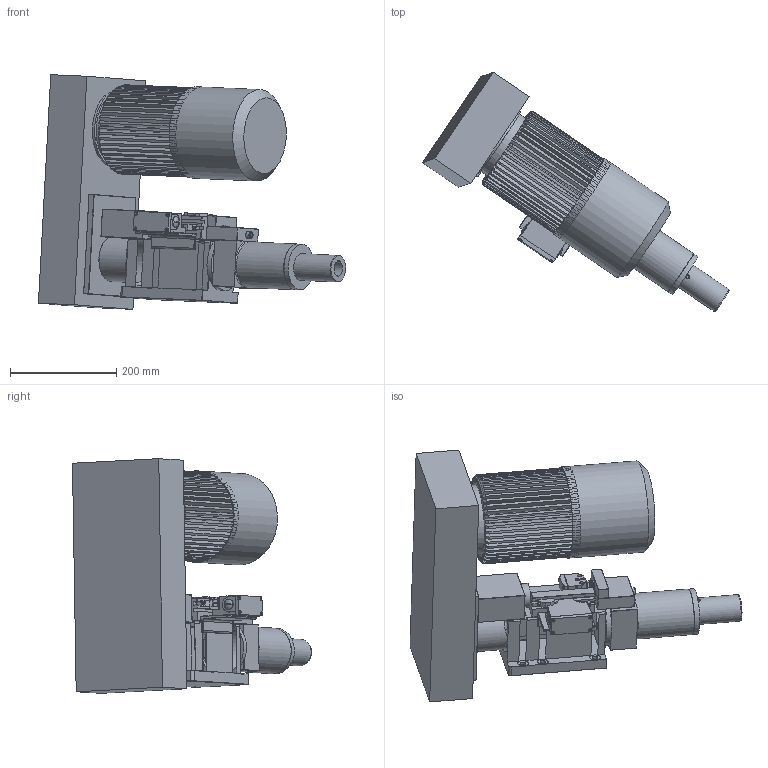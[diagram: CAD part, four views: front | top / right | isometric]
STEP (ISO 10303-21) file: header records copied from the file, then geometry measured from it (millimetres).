
FILE_DESCRIPTION((''),'2;1');
FILE_NAME('C:\VaultWork\Zeichnungen\Maßblätter\Gewindemaschinen\G16-50\G01422-2-0 Maßblatt G16-50 U-Laterne und Stellhülsenaufnahme Gr. 28.stp','2009-07-22T12:24:06',('Test'),(''),'Autodesk Inventor 2008','Autodesk Inventor 2008','');
FILE_SCHEMA(('AUTOMOTIVE_DESIGN { 1 0 10303 214 1 1 1 1 }'));
Length unit declared in the file: millimetre
Products named in the file (1): G01422-2-0 Maßblatt G16-50 U-Laterne und Stellhülsenaufnahme Gr. 28
Bounding box: 577.17 x 449.13 x 440.82 mm (x, y, z)
Volume: 18992145.4 mm3; surface area: 998811.3 mm2
Topology: 1 solids, 6 shells, 1063 faces, 2753 edges, 1729 vertices
Faces by surface type: plane 704, cylinder 191, cone 107, bspline 39, torus 18, sphere 4
Full cylindrical faces by diameter (mm): 3.8 x2, 4 x2, 4.3 x2, 4.917 x2, 5.9 x2, 5.97 x1, 6 x3, 6.6 x2, 6.647 x1, 7.323 x1, 8 x6, 9.98 x2, 10 x2, 11.4 x1, 13 x1, 16 x1, 20 x2, 28 x1, 28.6 x1, 45 x1, 50 x1, 86 x2, 130 x1, 140 x1, 172 x1
Entity records: 34210 total; most frequent: CARTESIAN_POINT 7987, ORIENTED_EDGE 5234, DIRECTION 5081, EDGE_CURVE 2617, VECTOR 1779, LINE 1779, VERTEX_POINT 1688, AXIS2_PLACEMENT_3D 1651
